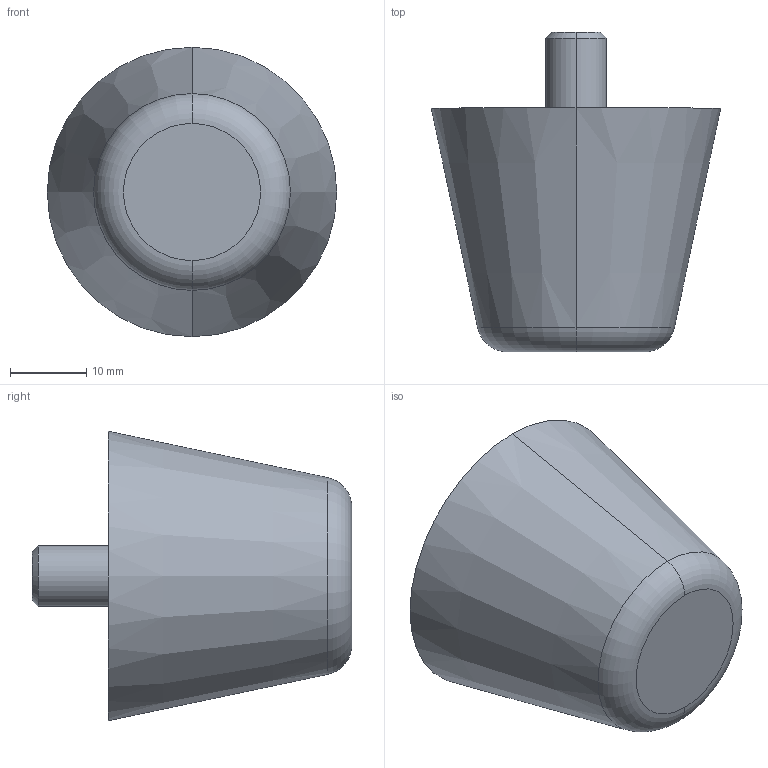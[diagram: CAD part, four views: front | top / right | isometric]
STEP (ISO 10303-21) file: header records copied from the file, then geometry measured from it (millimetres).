
FILE_DESCRIPTION (( 'STEP AP214' ), '1' );
FILE_NAME ('253-38-M8-10-40.step', '2023-03-24T07:38:14', ( '' ), ( '' ), 'SwSTEP 2.0', 'SolidWorks 2022', '' );
FILE_SCHEMA (( 'AUTOMOTIVE_DESIGN' ));
Length unit declared in the file: millimetre
Products named in the file (1): 253-38-M8-10-40
Bounding box: 38 x 41.99 x 38 mm (x, y, z)
Volume: 25260.2 mm3; surface area: 4970.9 mm2
Topology: 1 solids, 1 shells, 14 faces, 26 edges, 16 vertices
Faces by surface type: cone 6, plane 4, cylinder 2, torus 2
Entity records: 500 total; most frequent: DIRECTION 74, CARTESIAN_POINT 57, ORIENTED_EDGE 52, AXIS2_PLACEMENT_3D 33, EDGE_CURVE 26, CIRCLE 18, EDGE_LOOP 16, VERTEX_POINT 16
